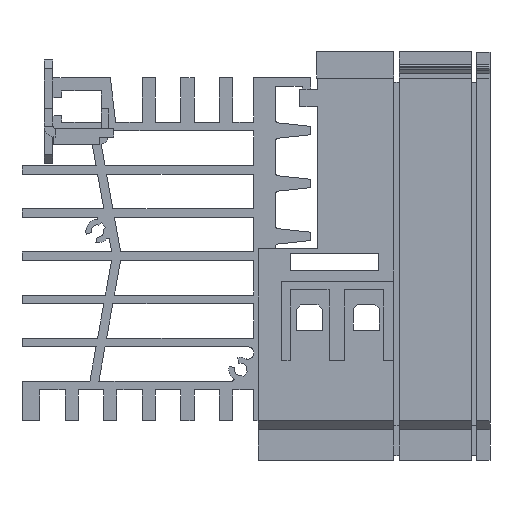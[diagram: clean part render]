
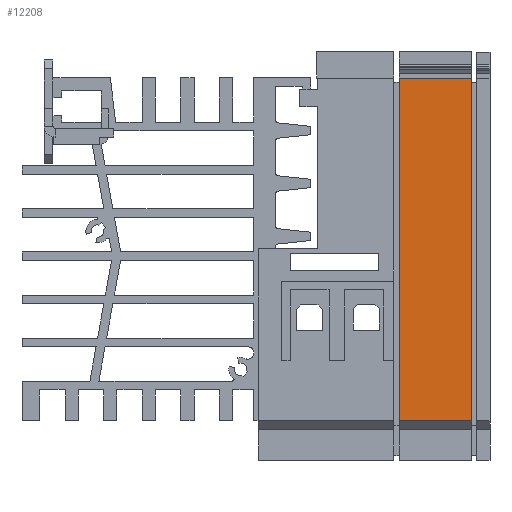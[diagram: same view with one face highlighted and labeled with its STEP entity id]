
A CAD part, front view. The second image highlights one B-rep face of the part: STEP entity #12208.
In plain terms, the highlighted planar face has unit normal (0, -1, 0).
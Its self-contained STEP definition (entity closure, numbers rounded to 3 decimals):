
#2942=DIRECTION('',(1.,0.,0.));
#2943=VECTOR('',#2942,16.4);
#2944=CARTESIAN_POINT('',(32.,5.5,-83.7));
#2945=LINE('',#2944,#2943);
#2950=DIRECTION('',(0.,0.,-1.));
#2951=VECTOR('',#2950,77.7);
#2952=CARTESIAN_POINT('',(48.4,5.5,-6.));
#2953=LINE('',#2952,#2951);
#2954=DIRECTION('',(0.,0.,1.));
#2955=VECTOR('',#2954,77.7);
#2956=CARTESIAN_POINT('',(32.,5.5,-83.7));
#2957=LINE('',#2956,#2955);
#2958=DIRECTION('',(1.,0.,0.));
#2959=VECTOR('',#2958,16.4);
#2960=CARTESIAN_POINT('',(32.,5.5,-6.));
#2961=LINE('',#2960,#2959);
#6653=CARTESIAN_POINT('',(48.4,5.5,-6.));
#6655=VERTEX_POINT('',#6653);
#6672=CARTESIAN_POINT('',(32.,5.5,-6.));
#6673=VERTEX_POINT('',#6672);
#6676=CARTESIAN_POINT('',(48.4,5.5,-83.7));
#6677=VERTEX_POINT('',#6676);
#6678=CARTESIAN_POINT('',(32.,5.5,-83.7));
#6679=VERTEX_POINT('',#6678);
#12195=CARTESIAN_POINT('',(40.2,5.5,-44.85));
#12196=DIRECTION('',(0.,1.,0.));
#12197=DIRECTION('',(1.,0.,0.));
#12198=AXIS2_PLACEMENT_3D('',#12195,#12196,#12197);
#12199=PLANE('',#12198);
#12201=ORIENTED_EDGE('',*,*,#12200,.T.);
#12202=ORIENTED_EDGE('',*,*,#12185,.F.);
#12203=ORIENTED_EDGE('',*,*,#11963,.T.);
#12205=ORIENTED_EDGE('',*,*,#12204,.T.);
#12206=EDGE_LOOP('',(#12201,#12202,#12203,#12205));
#12207=FACE_OUTER_BOUND('',#12206,.F.);
#11963=EDGE_CURVE('',#6679,#6673,#2957,.T.);
#12185=EDGE_CURVE('',#6679,#6677,#2945,.T.);
#12200=EDGE_CURVE('',#6655,#6677,#2953,.T.);
#12204=EDGE_CURVE('',#6673,#6655,#2961,.T.);
#12208=ADVANCED_FACE('',(#12207),#12199,.F.);
